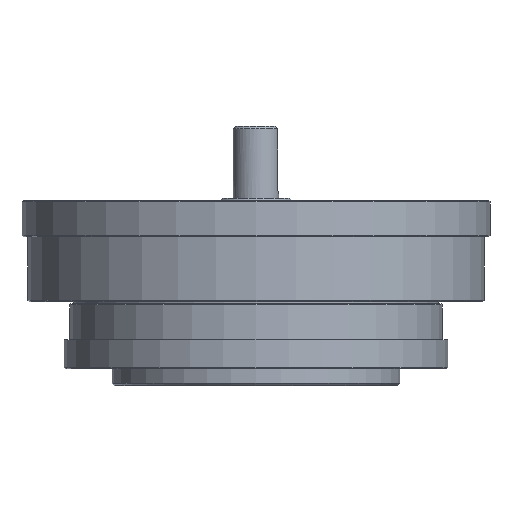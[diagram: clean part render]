
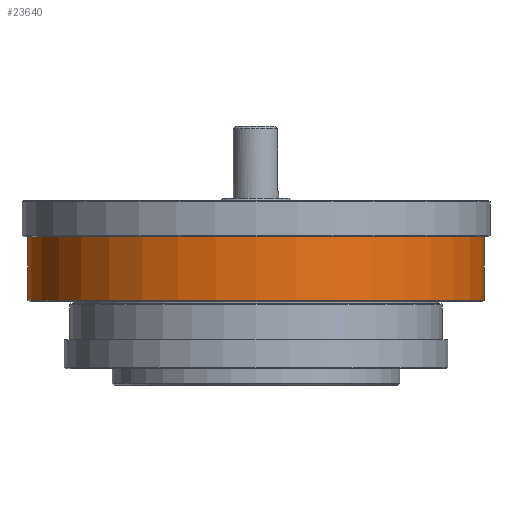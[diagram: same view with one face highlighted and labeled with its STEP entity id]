
A CAD part, front view. The second image highlights one B-rep face of the part: STEP entity #23640.
In plain terms, the highlighted cylindrical face has radius 95 mm (diameter 190 mm), a full revolution.
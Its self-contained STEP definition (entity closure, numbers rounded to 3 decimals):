
#691 = AXIS2_PLACEMENT_3D ( 'NONE', #16850, #926, #19491 ) ;
#926 = DIRECTION ( 'NONE',  ( 0., 0., 1. ) ) ;
#1483 = CARTESIAN_POINT ( 'NONE',  ( 0., 0., -41.51 ) ) ;
#1639 = CYLINDRICAL_SURFACE ( 'NONE', #23251, 95. ) ;
#2459 = FACE_OUTER_BOUND ( 'NONE', #16999, .T. ) ;
#4123 = DIRECTION ( 'NONE',  ( 1., 0., 0. ) ) ;
#4314 = VERTEX_POINT ( 'NONE', #30411 ) ;
#5632 = AXIS2_PLACEMENT_3D ( 'NONE', #1483, #20064, #4123 ) ;
#7594 = CIRCLE ( 'NONE', #691, 95. ) ;
#9024 = CIRCLE ( 'NONE', #5632, 95. ) ;
#10176 = EDGE_CURVE ( 'NONE', #4314, #4314, #9024, .T. ) ;
#10525 = EDGE_LOOP ( 'NONE', ( #24300 ) ) ;
#12341 = DIRECTION ( 'NONE',  ( 1., 0., 0. ) ) ;
#15779 = FACE_OUTER_BOUND ( 'NONE', #10525, .T. ) ;
#16850 = CARTESIAN_POINT ( 'NONE',  ( 0., 0., -10.31 ) ) ;
#16999 = EDGE_LOOP ( 'NONE', ( #19482 ) ) ;
#18345 = VERTEX_POINT ( 'NONE', #22615 ) ;
#19482 = ORIENTED_EDGE ( 'NONE', *, *, #28195, .F. ) ;
#19491 = DIRECTION ( 'NONE',  ( 1., 0., 0. ) ) ;
#20064 = DIRECTION ( 'NONE',  ( 0., 0., 1. ) ) ;
#22615 = CARTESIAN_POINT ( 'NONE',  ( 95., 0., -10.31 ) ) ;
#23251 = AXIS2_PLACEMENT_3D ( 'NONE', #30993, #33649, #12341 ) ;
#23640 = ADVANCED_FACE ( 'NONE', ( #2459, #15779 ), #1639, .T. ) ;
#24300 = ORIENTED_EDGE ( 'NONE', *, *, #10176, .T. ) ;
#28195 = EDGE_CURVE ( 'NONE', #18345, #18345, #7594, .T. ) ;
#30411 = CARTESIAN_POINT ( 'NONE',  ( 95., 0., -41.51 ) ) ;
#30993 = CARTESIAN_POINT ( 'NONE',  ( 0., 0., -11.51 ) ) ;
#33649 = DIRECTION ( 'NONE',  ( 0., 0., 1. ) ) ;
